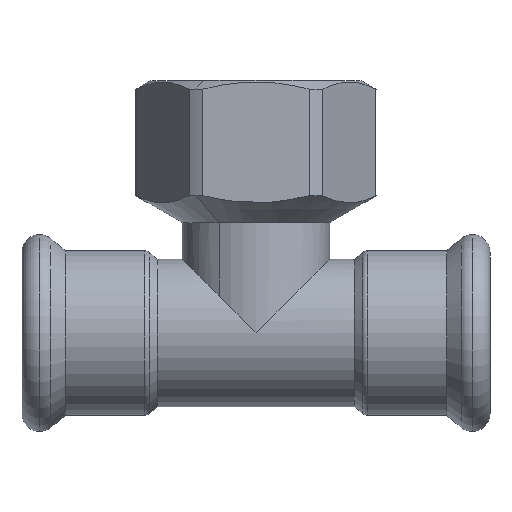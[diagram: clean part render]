
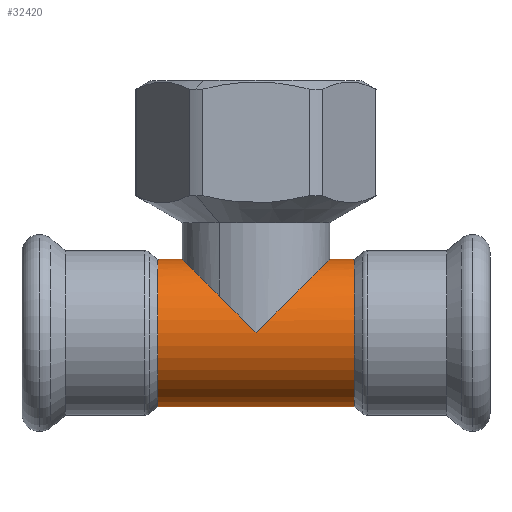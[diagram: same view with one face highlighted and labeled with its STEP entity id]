
A CAD part, top view. The second image highlights one B-rep face of the part: STEP entity #32420.
In plain terms, the highlighted cylindrical face has radius 14 mm (diameter 28 mm), a partial arc.
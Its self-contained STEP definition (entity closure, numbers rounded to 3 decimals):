
#1280=CARTESIAN_POINT('',(-390.306,41.873,0.));
#1290=VERTEX_POINT('',#1280);
#1470=CARTESIAN_POINT('',(-418.306,41.873,
0.));
#1480=VERTEX_POINT('',#1470);
#1510=CARTESIAN_POINT('',(-404.306,41.873,0.));
#1520=DIRECTION('',(0.,1.,0.));
#1530=DIRECTION('',(1.,0.,0.));
#1540=AXIS2_PLACEMENT_3D('',#1510,#1520,#1530);
#1550=CIRCLE('',#1540,14.);
#12560=CARTESIAN_POINT('',(-404.306,4.473,0.));
#12570=DIRECTION('',(0.,-1.,0.));
#12580=DIRECTION('',(1.,0.,0.));
#12590=AXIS2_PLACEMENT_3D('',#12560,#12570,#12580);
#12600=CYLINDRICAL_SURFACE('',#12590,14.);
#12610=CARTESIAN_POINT('',(-418.306,4.473,
0.));
#12620=DIRECTION('',(0.,-1.,0.));
#12630=VECTOR('',#12620,1.);
#12640=LINE('',#12610,#12630);
#12650=CARTESIAN_POINT('',(-418.306,4.473,
0.));
#12660=VERTEX_POINT('',#12650);
#12670=EDGE_CURVE('',#1480,#12660,#12640,.T.);
#12690=CARTESIAN_POINT('',(-404.306,4.473,0.));
#12700=DIRECTION('',(0.,-1.,0.));
#12710=DIRECTION('',(1.,0.,0.));
#12720=AXIS2_PLACEMENT_3D('',#12690,#12700,#12710);
#12730=CIRCLE('',#12720,14.);
#12740=CARTESIAN_POINT('',(-390.306,4.473,0.));
#12750=VERTEX_POINT('',#12740);
#12780=CARTESIAN_POINT('',(-390.306,4.473,0.));
#12790=DIRECTION('',(0.,-1.,0.));
#12800=VECTOR('',#12790,1.);
#12810=LINE('',#12780,#12800);
#12820=CARTESIAN_POINT('',(-390.306,9.173,0.));
#12830=VERTEX_POINT('',#12820);
#12840=EDGE_CURVE('',#12830,#12750,#12810,.T.);
#12860=CARTESIAN_POINT('',(-404.306,23.173,0.));
#12870=DIRECTION('',(-0.707,-0.707,0.));
#12880=DIRECTION('',(0.707,-0.707,0.));
#12890=AXIS2_PLACEMENT_3D('',#12860,#12870,#12880);
#12900=ELLIPSE('',#12890,19.799,14.);
#12990=CARTESIAN_POINT('',(-404.306,23.173,0.));
#13000=DIRECTION('',(0.707,-0.707,0.));
#13010=DIRECTION('',(-0.707,-0.707,0.));
#13020=AXIS2_PLACEMENT_3D('',#12990,#13000,#13010);
#13030=ELLIPSE('',#13020,19.799,14.);
#13040=CARTESIAN_POINT('',(-390.306,37.173,0.));
#13050=VERTEX_POINT('',#13040);
#13080=EDGE_CURVE('',#1290,#13050,#12810,.T.);
#27270=CARTESIAN_POINT('',(-397.306,30.173,
12.124));
#27280=VERTEX_POINT('',#27270);
#27290=CARTESIAN_POINT('',(-404.306,23.173,14.));
#27300=VERTEX_POINT('',#27290);
#27310=EDGE_CURVE('',#27280,#27300,#13030,.T.);
#27480=EDGE_CURVE('',#12830,#27300,#12900,.T.);
#28480=EDGE_CURVE('',#1480,#1290,#1550,.T.);
#28570=EDGE_CURVE('',#12750,#12660,#12730,.T.);
#28670=EDGE_CURVE('',#13050,#27280,#13030,.T.);
#32320=ORIENTED_EDGE('',*,*,#12840,.F.);
#32330=ORIENTED_EDGE('',*,*,#28570,.F.);
#32340=ORIENTED_EDGE('',*,*,#12670,.T.);
#32350=ORIENTED_EDGE('',*,*,#28480,.F.);
#32360=ORIENTED_EDGE('',*,*,#13080,.F.);
#32370=ORIENTED_EDGE('',*,*,#28670,.F.);
#32380=ORIENTED_EDGE('',*,*,#27310,.F.);
#32390=ORIENTED_EDGE('',*,*,#27480,.T.);
#32400=EDGE_LOOP('',(#32390,#32380,#32370,#32360,#32350,#32340,#32330,
#32320));
#32410=FACE_OUTER_BOUND('',#32400,.T.);
#32420=ADVANCED_FACE('',(#32410),#12600,.T.);
